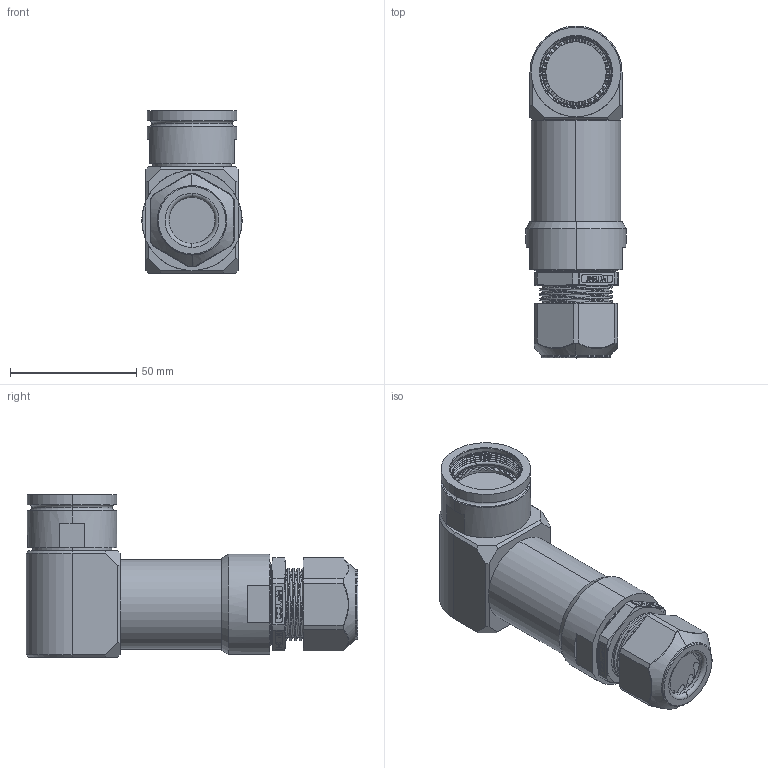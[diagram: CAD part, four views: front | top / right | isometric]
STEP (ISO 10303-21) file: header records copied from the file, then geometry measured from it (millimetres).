
FILE_DESCRIPTION (( 'STEP AP214' ), '1' );
FILE_NAME ('Q38EBSHELL-90X-19-XXXX-GL.STEP', '2025-09-25T17:25:15', ( '' ), ( '' ), 'SwSTEP 2.0', 'SolidWorks 2024', '' );
FILE_SCHEMA (( 'AUTOMOTIVE_DESIGN' ));
Length unit declared in the file: millimetre
Products named in the file (1): Q38EBSHELL-90X-19-XXXX-GL
Bounding box: 39.62 x 131.19 x 64.41 mm (x, y, z)
Surface area: 41668.5 mm2 (no closed solid volume)
Topology: 0 solids, 10 shells, 1383 faces, 3700 edges, 2392 vertices
Faces by surface type: plane 728, cylinder 245, bspline 146, cone 123, torus 121, sphere 20
Entity records: 65784 total; most frequent: CARTESIAN_POINT 38100, ORIENTED_EDGE 7351, EDGE_CURVE 3700, DIRECTION 3331, B_SPLINE_CURVE_WITH_KNOTS 2849, VERTEX_POINT 2392, AXIS2_PLACEMENT_3D 1506, EDGE_LOOP 1454
